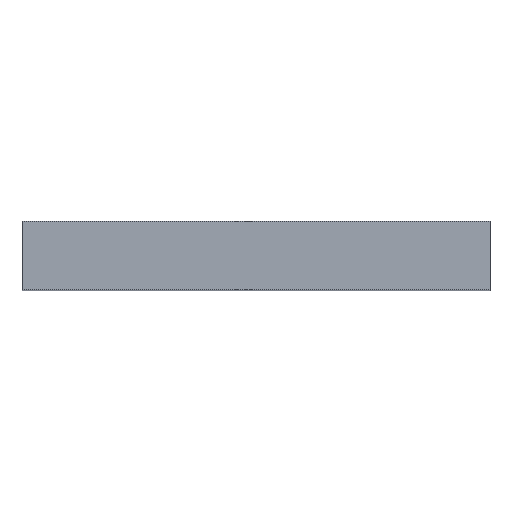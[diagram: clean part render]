
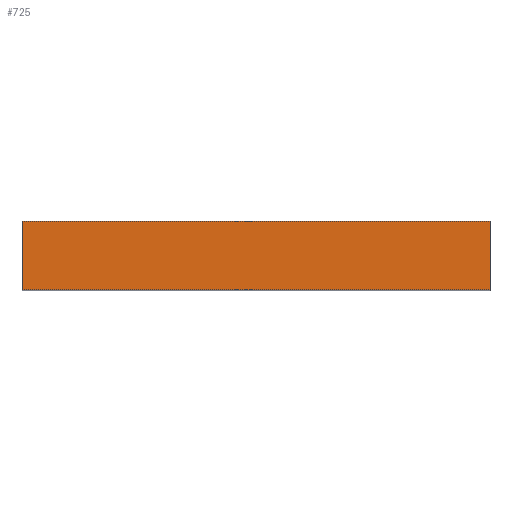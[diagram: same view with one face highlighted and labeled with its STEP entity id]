
A CAD part, top view. The second image highlights one B-rep face of the part: STEP entity #725.
In plain terms, the highlighted planar face has unit normal (0, 0, 1).
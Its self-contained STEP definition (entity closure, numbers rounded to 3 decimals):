
#4 = CARTESIAN_POINT ( 'NONE',  ( 123., 36., 198. ) ) ;
#34 = LINE ( 'NONE', #611, #184 ) ;
#56 = CARTESIAN_POINT ( 'NONE',  ( -123., 0., 198. ) ) ;
#73 = ORIENTED_EDGE ( 'NONE', *, *, #123, .F. ) ;
#100 = CARTESIAN_POINT ( 'NONE',  ( -123., 0., 198. ) ) ;
#123 = EDGE_CURVE ( 'NONE', #300, #1065, #1006, .T. ) ;
#168 = DIRECTION ( 'NONE',  ( 1., 0., 0. ) ) ;
#184 = VECTOR ( 'NONE', #168, 1000. ) ;
#195 = PLANE ( 'NONE',  #739 ) ;
#218 = ORIENTED_EDGE ( 'NONE', *, *, #608, .F. ) ;
#263 = VERTEX_POINT ( 'NONE', #100 ) ;
#289 = DIRECTION ( 'NONE',  ( -1., 0., 0. ) ) ;
#300 = VERTEX_POINT ( 'NONE', #815 ) ;
#343 = EDGE_LOOP ( 'NONE', ( #387, #73, #218, #433 ) ) ;
#387 = ORIENTED_EDGE ( 'NONE', *, *, #771, .T. ) ;
#402 = EDGE_CURVE ( 'NONE', #1030, #263, #641, .T. ) ;
#433 = ORIENTED_EDGE ( 'NONE', *, *, #402, .T. ) ;
#511 = VECTOR ( 'NONE', #572, 1000. ) ;
#572 = DIRECTION ( 'NONE',  ( 0., -1., 0. ) ) ;
#596 = CARTESIAN_POINT ( 'NONE',  ( -123., 36., 198. ) ) ;
#608 = EDGE_CURVE ( 'NONE', #1030, #300, #34, .T. ) ;
#611 = CARTESIAN_POINT ( 'NONE',  ( -123., 36., 198. ) ) ;
#641 = LINE ( 'NONE', #596, #511 ) ;
#643 = VECTOR ( 'NONE', #1018, 1000. ) ;
#659 = DIRECTION ( 'NONE',  ( 1., 0., 0. ) ) ;
#700 = FACE_OUTER_BOUND ( 'NONE', #343, .T. ) ;
#725 = ADVANCED_FACE ( 'NONE', ( #700 ), #195, .F. ) ;
#739 = AXIS2_PLACEMENT_3D ( 'NONE', #1071, #839, #289 ) ;
#762 = CARTESIAN_POINT ( 'NONE',  ( 123., 0., 198. ) ) ;
#771 = EDGE_CURVE ( 'NONE', #263, #1065, #942, .T. ) ;
#811 = VECTOR ( 'NONE', #659, 1000. ) ;
#815 = CARTESIAN_POINT ( 'NONE',  ( 123., 36., 198. ) ) ;
#839 = DIRECTION ( 'NONE',  ( 0., 0., -1. ) ) ;
#942 = LINE ( 'NONE', #56, #811 ) ;
#957 = CARTESIAN_POINT ( 'NONE',  ( -123., 36., 198. ) ) ;
#1006 = LINE ( 'NONE', #4, #643 ) ;
#1018 = DIRECTION ( 'NONE',  ( 0., -1., 0. ) ) ;
#1030 = VERTEX_POINT ( 'NONE', #957 ) ;
#1065 = VERTEX_POINT ( 'NONE', #762 ) ;
#1071 = CARTESIAN_POINT ( 'NONE',  ( -123., 36., 198. ) ) ;
